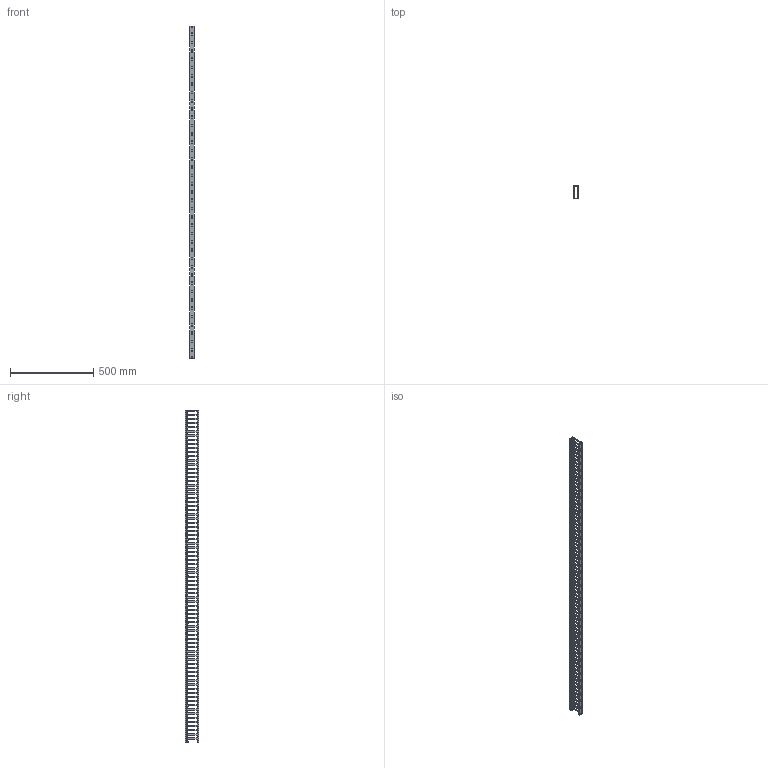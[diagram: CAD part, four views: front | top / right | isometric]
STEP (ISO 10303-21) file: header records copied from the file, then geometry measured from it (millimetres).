
FILE_DESCRIPTION (( 'STEP AP214' ), '1' );
FILE_NAME ('KD-28-20-LL.STEP', '2020-02-19T00:04:00', ( '' ), ( '' ), 'SwSTEP 2.0', 'SolidWorks 2018', '' );
FILE_SCHEMA (( 'AUTOMOTIVE_DESIGN' ));
Length unit declared in the file: millimetre
Products named in the file (3): KD-28-20-LL-body; KD-28-20-LL; KD-24-20-cover
Assembly tree (2 placements, depth 2):
  KD-28-20-LL
    KD-28-20-LL-body
    KD-24-20-cover
Bounding box: 25 x 80.17 x 2000 mm (x, y, z)
Volume: 527404.9 mm3; surface area: 690042.9 mm2
Topology: 2 solids, 2 shells, 1543 faces, 4617 edges, 3078 vertices
Faces by surface type: cylinder 795, plane 748
Entity records: 53319 total; most frequent: DIRECTION 9303, CARTESIAN_POINT 9243, ORIENTED_EDGE 9234, EDGE_CURVE 4617, AXIS2_PLACEMENT_3D 3138, VERTEX_POINT 3078, VECTOR 3027, LINE 3027
